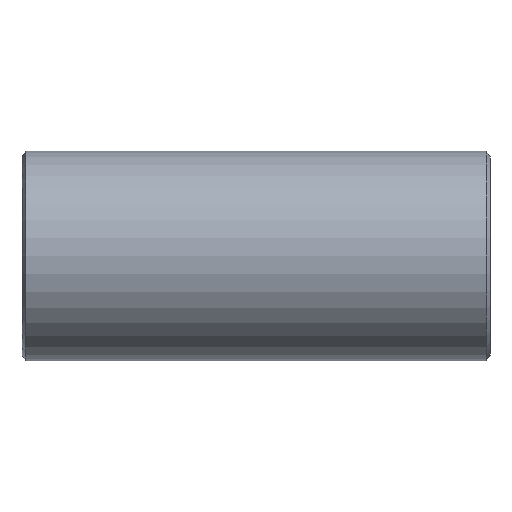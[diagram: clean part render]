
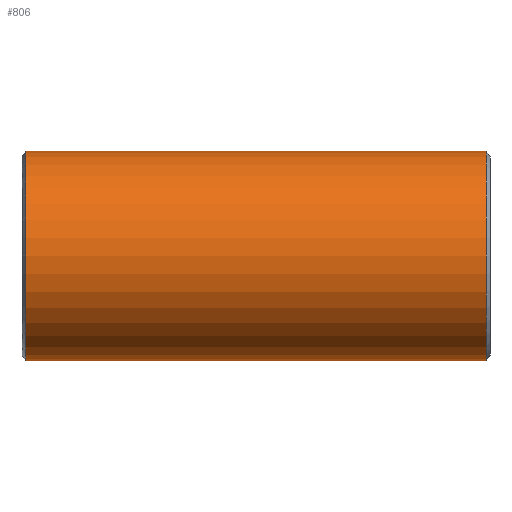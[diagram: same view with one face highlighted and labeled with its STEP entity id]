
A CAD part, front view. The second image highlights one B-rep face of the part: STEP entity #806.
In plain terms, the highlighted cylindrical face has radius 21.35 mm (diameter 42.7 mm), a partial arc.
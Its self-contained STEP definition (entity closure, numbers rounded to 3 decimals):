
#150 = LINE ( 'NONE', #469, #1433 ) ;
#163 = CYLINDRICAL_SURFACE ( 'NONE', #1629, 21.35 ) ;
#175 = EDGE_CURVE ( 'NONE', #1504, #466, #950, .T. ) ;
#230 = VERTEX_POINT ( 'NONE', #1056 ) ;
#234 = AXIS2_PLACEMENT_3D ( 'NONE', #375, #1000, #1619 ) ;
#252 = ORIENTED_EDGE ( 'NONE', *, *, #1672, .F. ) ;
#297 = CARTESIAN_POINT ( 'NONE',  ( 46.836, 0., 21.35 ) ) ;
#371 = EDGE_CURVE ( 'NONE', #466, #230, #1710, .T. ) ;
#375 = CARTESIAN_POINT ( 'NONE',  ( 46.836, 0., 0. ) ) ;
#463 = DIRECTION ( 'NONE',  ( -1., 0., 0. ) ) ;
#466 = VERTEX_POINT ( 'NONE', #297 ) ;
#469 = CARTESIAN_POINT ( 'NONE',  ( 47.6, 0., -21.35 ) ) ;
#603 = DIRECTION ( 'NONE',  ( -1., 0., 0. ) ) ;
#718 = ORIENTED_EDGE ( 'NONE', *, *, #371, .T. ) ;
#751 = CIRCLE ( 'NONE', #1761, 21.35 ) ;
#755 = ORIENTED_EDGE ( 'NONE', *, *, #1809, .F. ) ;
#806 = ADVANCED_FACE ( 'NONE', ( #1121 ), #163, .T. ) ;
#902 = DIRECTION ( 'NONE',  ( 0., 0., 1. ) ) ;
#950 = CIRCLE ( 'NONE', #234, 21.35 ) ;
#955 = DIRECTION ( 'NONE',  ( 0., 0., 1. ) ) ;
#1000 = DIRECTION ( 'NONE',  ( -1., 0., 0. ) ) ;
#1056 = CARTESIAN_POINT ( 'NONE',  ( -46.836, 0., 21.35 ) ) ;
#1068 = DIRECTION ( 'NONE',  ( -1., 0., 0. ) ) ;
#1111 = DIRECTION ( 'NONE',  ( -1., 0., 0. ) ) ;
#1121 = FACE_OUTER_BOUND ( 'NONE', #1910, .T. ) ;
#1262 = CARTESIAN_POINT ( 'NONE',  ( -46.836, 0., -21.35 ) ) ;
#1263 = ORIENTED_EDGE ( 'NONE', *, *, #175, .T. ) ;
#1433 = VECTOR ( 'NONE', #1068, 1000. ) ;
#1504 = VERTEX_POINT ( 'NONE', #1590 ) ;
#1561 = VECTOR ( 'NONE', #463, 1000. ) ;
#1590 = CARTESIAN_POINT ( 'NONE',  ( 46.836, 0., -21.35 ) ) ;
#1619 = DIRECTION ( 'NONE',  ( 0., 0., 1. ) ) ;
#1629 = AXIS2_PLACEMENT_3D ( 'NONE', #1730, #1111, #955 ) ;
#1672 = EDGE_CURVE ( 'NONE', #1921, #230, #751, .T. ) ;
#1710 = LINE ( 'NONE', #1771, #1561 ) ;
#1730 = CARTESIAN_POINT ( 'NONE',  ( 47.6, 0., 0. ) ) ;
#1761 = AXIS2_PLACEMENT_3D ( 'NONE', #1815, #603, #902 ) ;
#1771 = CARTESIAN_POINT ( 'NONE',  ( 47.6, 0., 21.35 ) ) ;
#1809 = EDGE_CURVE ( 'NONE', #1504, #1921, #150, .T. ) ;
#1815 = CARTESIAN_POINT ( 'NONE',  ( -46.836, 0., 0. ) ) ;
#1910 = EDGE_LOOP ( 'NONE', ( #755, #1263, #718, #252 ) ) ;
#1921 = VERTEX_POINT ( 'NONE', #1262 ) ;
